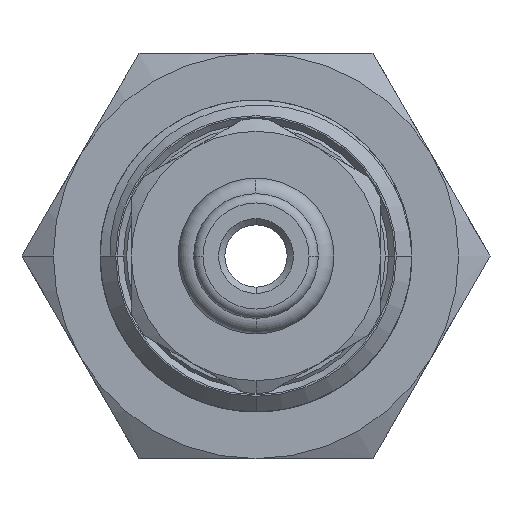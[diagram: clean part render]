
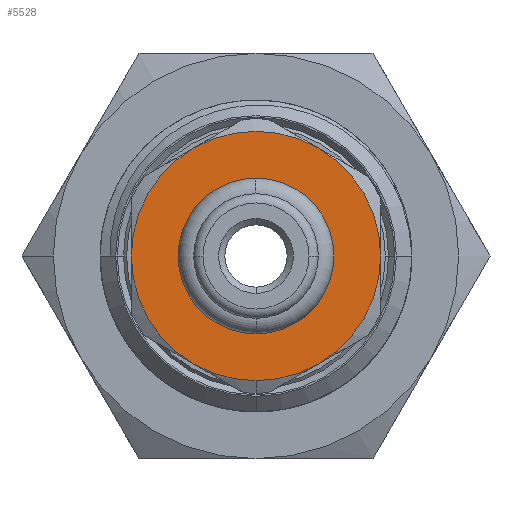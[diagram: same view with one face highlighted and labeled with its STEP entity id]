
A CAD part, front view. The second image highlights one B-rep face of the part: STEP entity #5528.
In plain terms, the highlighted planar face has unit normal (0, -1, 0).
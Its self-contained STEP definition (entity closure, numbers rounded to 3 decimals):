
#163 = CIRCLE ( 'NONE', #13207, 4. ) ;
#223 = DIRECTION ( 'NONE',  ( 0., -1., 0. ) ) ;
#360 = CARTESIAN_POINT ( 'NONE',  ( 0., -30.7, 0. ) ) ;
#451 = CIRCLE ( 'NONE', #9965, 4. ) ;
#752 = EDGE_CURVE ( 'NONE', #14265, #2359, #8400, .T. ) ;
#1079 = DIRECTION ( 'NONE',  ( 0., -1., 0. ) ) ;
#1471 = CARTESIAN_POINT ( 'NONE',  ( 0., -30.7, 0. ) ) ;
#1582 = AXIS2_PLACEMENT_3D ( 'NONE', #9169, #2616, #12992 ) ;
#1607 = CARTESIAN_POINT ( 'NONE',  ( -2., -30.7, -3.464 ) ) ;
#1692 = DIRECTION ( 'NONE',  ( 0., -1., 0. ) ) ;
#1781 = EDGE_CURVE ( 'NONE', #13822, #2389, #2151, .T. ) ;
#2151 = CIRCLE ( 'NONE', #5680, 2.5 ) ;
#2359 = VERTEX_POINT ( 'NONE', #13248 ) ;
#2389 = VERTEX_POINT ( 'NONE', #4141 ) ;
#2616 = DIRECTION ( 'NONE',  ( 0., 1., 0. ) ) ;
#2794 = CARTESIAN_POINT ( 'NONE',  ( 0., -30.7, 0. ) ) ;
#2977 = ORIENTED_EDGE ( 'NONE', *, *, #5638, .T. ) ;
#3014 = DIRECTION ( 'NONE',  ( 0., -1., 0. ) ) ;
#3021 = EDGE_CURVE ( 'NONE', #9925, #4084, #5965, .T. ) ;
#3209 = VERTEX_POINT ( 'NONE', #11067 ) ;
#3409 = ORIENTED_EDGE ( 'NONE', *, *, #1781, .F. ) ;
#4084 = VERTEX_POINT ( 'NONE', #15149 ) ;
#4141 = CARTESIAN_POINT ( 'NONE',  ( 0., -30.7, 2.5 ) ) ;
#4821 = CIRCLE ( 'NONE', #14351, 4. ) ;
#5262 = DIRECTION ( 'NONE',  ( 0., 1., 0. ) ) ;
#5284 = DIRECTION ( 'NONE',  ( 0.5, 0., 0.866 ) ) ;
#5467 = CARTESIAN_POINT ( 'NONE',  ( 2., -30.7, 3.464 ) ) ;
#5528 = ADVANCED_FACE ( 'NONE', ( #14032, #12910 ), #6287, .F. ) ;
#5638 = EDGE_CURVE ( 'NONE', #10363, #3209, #16344, .T. ) ;
#5680 = AXIS2_PLACEMENT_3D ( 'NONE', #360, #3014, #16755 ) ;
#5965 = CIRCLE ( 'NONE', #7315, 4. ) ;
#6125 = DIRECTION ( 'NONE',  ( -1., 0., 0. ) ) ;
#6287 = PLANE ( 'NONE',  #15251 ) ;
#6638 = CARTESIAN_POINT ( 'NONE',  ( 0., -30.7, 0. ) ) ;
#7315 = AXIS2_PLACEMENT_3D ( 'NONE', #1471, #9377, #11920 ) ;
#7331 = ORIENTED_EDGE ( 'NONE', *, *, #14488, .F. ) ;
#8081 = CARTESIAN_POINT ( 'NONE',  ( 0., -30.7, 0. ) ) ;
#8214 = ORIENTED_EDGE ( 'NONE', *, *, #15209, .T. ) ;
#8400 = CIRCLE ( 'NONE', #1582, 4. ) ;
#9015 = DIRECTION ( 'NONE',  ( 1., 0., 0. ) ) ;
#9169 = CARTESIAN_POINT ( 'NONE',  ( 0., -30.7, 0. ) ) ;
#9377 = DIRECTION ( 'NONE',  ( 0., 1., 0. ) ) ;
#9652 = DIRECTION ( 'NONE',  ( 0., 1., 0. ) ) ;
#9925 = VERTEX_POINT ( 'NONE', #5467 ) ;
#9965 = AXIS2_PLACEMENT_3D ( 'NONE', #15081, #11142, #6125 ) ;
#10009 = ORIENTED_EDGE ( 'NONE', *, *, #752, .F. ) ;
#10164 = EDGE_CURVE ( 'NONE', #9925, #15183, #13216, .T. ) ;
#10229 = EDGE_LOOP ( 'NONE', ( #12331, #3409 ) ) ;
#10292 = DIRECTION ( 'NONE',  ( 0., -1., 0. ) ) ;
#10363 = VERTEX_POINT ( 'NONE', #12235 ) ;
#11034 = EDGE_CURVE ( 'NONE', #2389, #13822, #16473, .T. ) ;
#11067 = CARTESIAN_POINT ( 'NONE',  ( 2., -30.7, -3.464 ) ) ;
#11142 = DIRECTION ( 'NONE',  ( 0., 1., 0. ) ) ;
#11270 = AXIS2_PLACEMENT_3D ( 'NONE', #8081, #1692, #14643 ) ;
#11920 = DIRECTION ( 'NONE',  ( 0.5, 0., 0.866 ) ) ;
#12126 = DIRECTION ( 'NONE',  ( -0.5, 0., -0.866 ) ) ;
#12200 = CARTESIAN_POINT ( 'NONE',  ( 0., -30.7, 0. ) ) ;
#12235 = CARTESIAN_POINT ( 'NONE',  ( 0., -30.7, -4. ) ) ;
#12331 = ORIENTED_EDGE ( 'NONE', *, *, #11034, .F. ) ;
#12632 = CARTESIAN_POINT ( 'NONE',  ( -2., -30.7, 3.464 ) ) ;
#12716 = CARTESIAN_POINT ( 'NONE',  ( 0., -30.7, 0. ) ) ;
#12785 = EDGE_LOOP ( 'NONE', ( #7331, #10009, #8214, #2977, #16030, #14087, #16684 ) ) ;
#12910 = FACE_OUTER_BOUND ( 'NONE', #12785, .T. ) ;
#12992 = DIRECTION ( 'NONE',  ( -0.5, 0., -0.866 ) ) ;
#13151 = CARTESIAN_POINT ( 'NONE',  ( 0., -30.7, -2.5 ) ) ;
#13207 = AXIS2_PLACEMENT_3D ( 'NONE', #12200, #9652, #14699 ) ;
#13216 = CIRCLE ( 'NONE', #15648, 4. ) ;
#13248 = CARTESIAN_POINT ( 'NONE',  ( -4., -30.7, 0. ) ) ;
#13822 = VERTEX_POINT ( 'NONE', #13151 ) ;
#13881 = EDGE_CURVE ( 'NONE', #4084, #3209, #163, .T. ) ;
#14032 = FACE_BOUND ( 'NONE', #10229, .T. ) ;
#14087 = ORIENTED_EDGE ( 'NONE', *, *, #3021, .F. ) ;
#14265 = VERTEX_POINT ( 'NONE', #1607 ) ;
#14351 = AXIS2_PLACEMENT_3D ( 'NONE', #12716, #1079, #15635 ) ;
#14488 = EDGE_CURVE ( 'NONE', #2359, #15183, #451, .T. ) ;
#14643 = DIRECTION ( 'NONE',  ( 0., 0., 1. ) ) ;
#14699 = DIRECTION ( 'NONE',  ( 1., 0., 0. ) ) ;
#14707 = AXIS2_PLACEMENT_3D ( 'NONE', #2794, #223, #12126 ) ;
#15081 = CARTESIAN_POINT ( 'NONE',  ( 0., -30.7, 0. ) ) ;
#15149 = CARTESIAN_POINT ( 'NONE',  ( 4., -30.7, 0. ) ) ;
#15183 = VERTEX_POINT ( 'NONE', #12632 ) ;
#15209 = EDGE_CURVE ( 'NONE', #14265, #10363, #4821, .T. ) ;
#15251 = AXIS2_PLACEMENT_3D ( 'NONE', #15414, #5262, #9015 ) ;
#15414 = CARTESIAN_POINT ( 'NONE',  ( 0., -30.7, 0. ) ) ;
#15635 = DIRECTION ( 'NONE',  ( -0.5, 0., -0.866 ) ) ;
#15648 = AXIS2_PLACEMENT_3D ( 'NONE', #6638, #10292, #5284 ) ;
#16030 = ORIENTED_EDGE ( 'NONE', *, *, #13881, .F. ) ;
#16344 = CIRCLE ( 'NONE', #14707, 4. ) ;
#16473 = CIRCLE ( 'NONE', #11270, 2.5 ) ;
#16684 = ORIENTED_EDGE ( 'NONE', *, *, #10164, .T. ) ;
#16755 = DIRECTION ( 'NONE',  ( 0., 0., -1. ) ) ;
